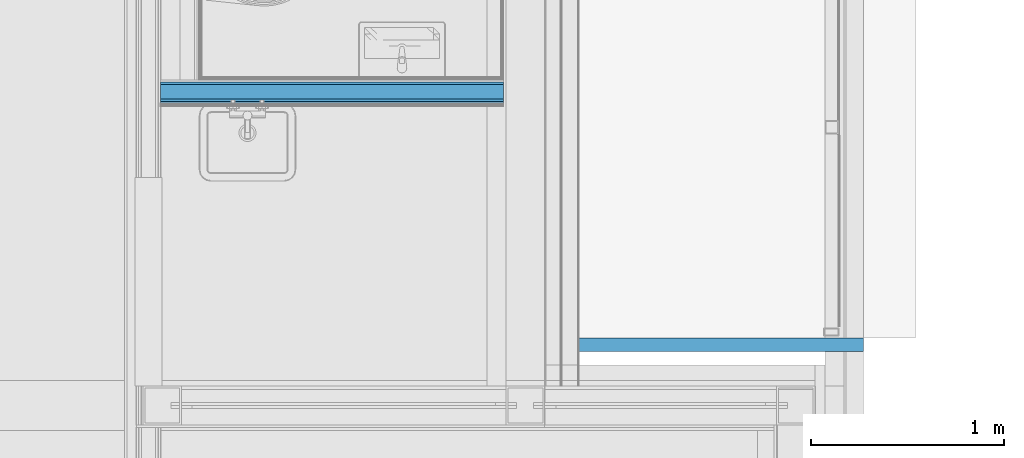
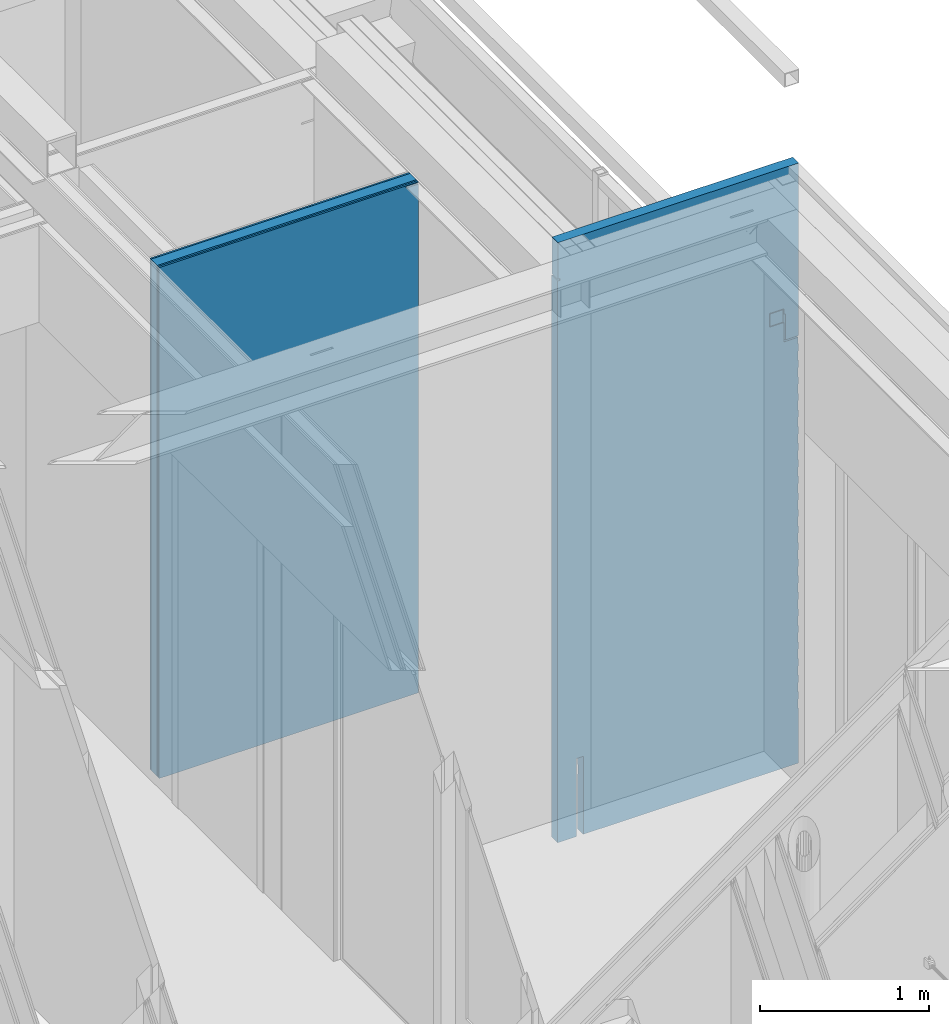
# One storey, part 91 of 165: 5 building element parts, 2 elements without a shape of their own.
"""IFC2X3 building model written with IfcOpenShell, lengths in millimetres."""

from ifc_helpers import new_model, entity, si_unit, converted_unit, derived_unit, money_unit, direction, frame, origin_with_axes, place, context, subcontext, project, spatial, faceted_brep, material, type_object, element, aggregate, save


model = new_model("IFC2X3")

# Units and contexts
model_context = context("Model", 3, precision=0.01, world=origin_with_axes(), true_north=direction((0.0, 1.0)))
body_context = subcontext(model_context, "Body", "Model", "MODEL_VIEW")
ifc_project = project(units=[si_unit("LENGTHUNIT", "METRE", prefix="MILLI"), si_unit("AREAUNIT", "SQUARE_METRE"), si_unit("VOLUMEUNIT", "CUBIC_METRE"), converted_unit("PLANEANGLEUNIT", "DEGREE", entity("IfcPlaneAngleMeasure", 0.0174532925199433), si_unit("PLANEANGLEUNIT", "RADIAN"), dimensions=[0, 0, 0, 0, 0, 0, 0]), money_unit("EUR"), converted_unit("TIMEUNIT", "Year", entity("IfcTimeMeasure", 31556926.0), si_unit("TIMEUNIT", "SECOND"), dimensions=[0, 0, 1, 0, 0, 0, 0]), si_unit("MASSUNIT", "GRAM", prefix="KILO"), si_unit("THERMODYNAMICTEMPERATUREUNIT", "DEGREE_CELSIUS"), si_unit("LUMINOUSINTENSITYUNIT", "LUMEN"), si_unit("ENERGYUNIT", "JOULE", prefix="MEGA"), derived_unit("THERMALCONDUCTANCEUNIT", [(si_unit("POWERUNIT", "WATT"), 1), (si_unit("LENGTHUNIT", "METRE"), -1), (si_unit("THERMODYNAMICTEMPERATUREUNIT", "KELVIN"), -1)]), derived_unit("SPECIFICHEATCAPACITYUNIT", [(si_unit("ENERGYUNIT", "JOULE"), 1), (si_unit("MASSUNIT", "GRAM", prefix="KILO"), -1), (si_unit("THERMODYNAMICTEMPERATUREUNIT", "KELVIN"), -1)]), derived_unit("MASSDENSITYUNIT", [(si_unit("MASSUNIT", "GRAM", prefix="KILO"), 1), (si_unit("VOLUMEUNIT", "CUBIC_METRE"), -1)])], contexts=[model_context])

# Site, building, storey
site_placement = place(None, origin_with_axes())
site = spatial("IfcSite", under=ifc_project, at=site_placement, Name="Site", CompositionType="ELEMENT")
building_placement = place(site_placement, origin_with_axes())
building = spatial("IfcBuilding", under=site, at=building_placement, Name="Naam gebouw", CompositionType="ELEMENT")
storey_placement = place(building_placement, origin_with_axes())
storey = spatial("IfcBuildingStorey", under=building, at=storey_placement, Name="Begane grond", CompositionType="ELEMENT", Elevation=0.0)

# Wall, building element part
wall_type = type_object("IfcWallType", Name="21 Buitenwand spouwmuur HSB 464", PredefinedType="NOTDEFINED")
wall_placement = place(storey_placement, frame((28499.99998415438, 16749.99778166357, -485.0), z_axis=(0.0, 0.0, 1.0), x_axis=(1.0, 0.0, 0.0)))
wall = element("IfcWall", 1, at=wall_placement, inside=storey, type_object=wall_type, Name="21_Wand-x")
ifc_material_1 = material(Name="Steen - Baksteen")
building_element_part_1_placement = place(wall_placement, origin_with_axes())
building_element_part_1 = element("IfcBuildingElementPart", 2, at=building_element_part_1_placement, material=ifc_material_1, Name="Steen - Baksteen", context=body_context, shape_type="Brep", body=[
    faceted_brep([(176.000089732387, 250.0, 465.0000396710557), (176.000089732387, 250.0, 514.9999766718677), (1650.000015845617, 250.0, 514.9999766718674), (1650.000015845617, 250.0, 465.0000396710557), (176.000089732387, 245.0000227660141, 514.9999766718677), (176.000089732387, 245.0000227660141, 465.0000396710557), (176.000089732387, 245.0000227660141, 395.0000313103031), (176.000089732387, 250.0, 395.0000313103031), (176.000089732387, 250.0, 0.0), (176.000089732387, 179.9999999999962, 0.0), (176.000089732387, 179.9999999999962, 565.0000000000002), (176.000089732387, 245.0000227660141, 565.0000000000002), (1645.000038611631, 245.0000227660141, 514.9999766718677), (1645.000038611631, 179.9999999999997, 514.9999766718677), (1650.000015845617, 179.9999999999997, 514.9999766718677), (1650.000015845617, 179.9999999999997, 465.0000396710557), (1645.000038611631, 179.9999999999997, 465.0000396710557), (1645.000038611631, 245.0000227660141, 465.0000396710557), (1645.000038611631, 245.0000227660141, 395.0000313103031), (1645.000038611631, 179.9999999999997, 395.0000313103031), (1650.000015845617, 179.9999999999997, 395.0000313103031), (1650.000015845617, 250.0, 395.0000313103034), (1650.000015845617, 250.0, 0.0), (1650.000015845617, 179.9999999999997, 0.0), (1645.000038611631, 179.9999999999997, 584.999944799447), (1650.000015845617, 179.9999999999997, 584.999944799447), (1650.000015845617, 179.9999999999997, 635.0000427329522), (1645.000038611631, 179.9999999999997, 635.0000427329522), (1645.000038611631, 179.9999999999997, 705.0000108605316), (1650.000015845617, 179.9999999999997, 705.0000108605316), (1650.000015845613, 179.9999999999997, 754.9999478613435), (1645.000038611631, 179.9999999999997, 754.9999478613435), (1645.000038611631, 179.9999999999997, 824.9999562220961), (1650.000015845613, 179.9999999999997, 824.9999562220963), (1650.000015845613, 179.9999999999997, 875.0000139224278), (1645.000038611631, 179.9999999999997, 875.0000139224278), (1645.000038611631, 179.9999999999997, 945.0000222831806), (1650.000015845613, 179.9999999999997, 945.0000222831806), (1650.000015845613, 179.9999999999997, 994.9999995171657), (1645.000038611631, 179.9999999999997, 994.9999995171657), (1645.000038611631, 179.9999999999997, 1064.999927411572), (1650.000015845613, 179.9999999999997, 1064.999927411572), (1650.000015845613, 179.9999999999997, 1115.000025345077), (1645.000038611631, 179.9999999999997, 1115.000025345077), (1645.000038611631, 179.9999999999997, 1184.999993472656), (1650.000015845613, 179.9999999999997, 1184.999993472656), (1650.000015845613, 179.9999999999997, 1234.999970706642), (1645.000038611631, 179.9999999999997, 1234.999970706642), (1645.000038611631, 179.9999999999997, 1304.999979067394), (1650.000015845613, 179.9999999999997, 1304.999979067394), (1650.000015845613, 179.9999999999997, 1354.999996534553), (1645.000038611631, 179.9999999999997, 1354.999996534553), (1645.000038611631, 179.9999999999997, 1425.000004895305), (1650.000015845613, 179.9999999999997, 1425.000004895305), (1650.000015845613, 179.9999999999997, 1474.999982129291), (1645.000038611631, 179.9999999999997, 1474.999982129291), (1645.000038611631, 179.9999999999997, 1544.99995025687), (1650.000015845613, 179.9999999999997, 1544.99995025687), (1650.000015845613, 179.9999999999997, 1595.000007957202), (1645.000038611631, 179.9999999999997, 1595.000007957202), (1645.000038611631, 179.9999999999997, 1664.999976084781), (1650.000015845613, 179.9999999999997, 1664.999976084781), (1650.000015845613, 179.9999999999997, 1714.999993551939), (1645.000038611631, 179.9999999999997, 1714.999993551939), (1645.000038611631, 179.9999999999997, 1784.999961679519), (1650.000015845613, 179.9999999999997, 1784.999961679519), (1650.000015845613, 179.9999999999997, 1835.000019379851), (1645.000038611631, 179.9999999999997, 1835.000019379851), (1645.000038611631, 179.9999999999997, 1905.000027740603), (1650.000015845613, 179.9999999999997, 1905.000027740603), (1650.000015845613, 179.9999999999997, 1954.999964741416), (1645.000038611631, 179.9999999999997, 1954.999964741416), (1645.000038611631, 179.9999999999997, 2024.999973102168), (1650.000015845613, 179.9999999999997, 2024.999973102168), (1650.000015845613, 179.9999999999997, 2075.0000308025), (1645.000038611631, 179.9999999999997, 2075.0000308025), (1645.000038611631, 179.9999999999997, 2144.99999893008), (1650.000015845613, 179.9999999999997, 2144.99999893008), (1650.000015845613, 179.9999999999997, 2194.999976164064), (1645.000038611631, 179.9999999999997, 2194.999976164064), (1645.000038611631, 179.9999999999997, 2264.999944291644), (1650.000015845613, 179.9999999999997, 2264.999944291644), (1650.000015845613, 179.9999999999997, 2315.000001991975), (1645.000038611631, 179.9999999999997, 2315.000001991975), (1645.000038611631, 179.9999999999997, 2385.000010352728), (1650.00001584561, 179.9999999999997, 2385.000010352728), (1650.00001584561, 179.9999999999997, 2434.999987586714), (1645.000038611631, 179.9999999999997, 2434.999987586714), (1645.000038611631, 179.9999999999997, 2504.999995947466), (1650.00001584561, 179.9999999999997, 2504.999995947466), (1650.00001584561, 179.9999999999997, 2555.000013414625), (1645.000038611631, 179.9999999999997, 2555.000013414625), (1645.000038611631, 179.9999999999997, 2625.000021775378), (1650.00001584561, 179.9999999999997, 2625.000021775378), (1650.00001584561, 179.9999999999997, 2674.999999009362), (1645.000038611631, 179.9999999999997, 2674.999999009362), (1645.000038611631, 179.9999999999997, 2744.999967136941), (1650.00001584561, 179.9999999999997, 2744.999967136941), (1650.00001584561, 179.9999999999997, 2795.000024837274), (1645.000038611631, 179.9999999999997, 2795.000024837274), (1645.000038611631, 179.9999999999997, 2864.999992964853), (1650.00001584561, 179.9999999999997, 2864.999992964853), (1650.00001584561, 179.9999999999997, 2914.999970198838), (1645.000038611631, 179.9999999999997, 2914.999970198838), (1645.000038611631, 179.9999999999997, 2984.999978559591), (1650.00001584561, 179.9999999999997, 2984.999978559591), (1650.00001584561, 179.9999999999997, 3035.000036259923), (1645.000038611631, 179.9999999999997, 3035.000036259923), (1645.000038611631, 179.9999999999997, 3085.000008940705), (1550.000015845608, 179.9999999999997, 3085.000008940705), (1550.000015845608, 179.9999999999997, 3225.000013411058), (1450.000015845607, 179.9999999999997, 3225.000013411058), (1450.000015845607, 179.9999999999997, 3325.000013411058), (1550.000015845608, 179.9999999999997, 3325.000013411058), (1550.000015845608, 179.9999999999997, 3285.000008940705), (1560.00001584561, 179.9999999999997, 3285.000008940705), (1560.00001584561, 179.9999999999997, 3095.000008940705), (1650.00001584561, 179.9999999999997, 3095.000008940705), (1650.000015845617, 179.9999999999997, 4345.0), (1.000020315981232, 179.9999999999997, 4345.0), (1.000020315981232, 179.9999999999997, 4079.999999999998), (16.0000203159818, 179.9999999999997, 4079.999999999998), (16.0000203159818, 179.9999999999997, 4067.999999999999), (0.0, 179.9999999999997, 4067.999999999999), (0.0, 179.9999999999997, 0.0), (128.0000897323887, 179.9999999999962, 0.0), (128.0000897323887, 179.9999999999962, 565.0000000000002), (128.0000897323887, 245.0000227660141, 565.0000000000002), (128.0000897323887, 245.0000227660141, 514.9999766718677), (50.0000037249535, 245.0000227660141, 514.9999766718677), (50.0000037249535, 245.0000227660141, 584.999944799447), (1645.000038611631, 245.0000227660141, 584.999944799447), (50.0000037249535, 250.0, 584.999944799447), (1650.000015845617, 250.0, 584.999944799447), (1650.000015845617, 250.0, 635.0000427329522), (50.0000037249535, 250.0, 635.0000427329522), (50.0000037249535, 245.0000227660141, 635.0000427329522), (1645.000038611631, 245.0000227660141, 635.0000427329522), (1645.000038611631, 245.0000227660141, 705.0000108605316), (50.0000037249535, 245.0000227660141, 705.0000108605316), (50.0000037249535, 250.0, 705.0000108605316), (1650.000015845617, 250.0, 705.0000108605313), (1650.000015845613, 250.0, 754.9999478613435), (50.0000037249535, 250.0, 754.9999478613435), (50.0000037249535, 245.0000227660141, 754.9999478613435), (1645.000038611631, 245.0000227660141, 754.9999478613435), (1645.000038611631, 245.0000227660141, 824.9999562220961), (50.0000037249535, 245.0000227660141, 824.9999562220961), (50.0000037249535, 250.0, 824.9999562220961), (1650.000015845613, 250.0, 824.9999562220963), (1650.000015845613, 250.0, 875.0000139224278), (50.0000037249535, 250.0, 875.0000139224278), (50.0000037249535, 245.0000227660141, 875.0000139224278), (1645.000038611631, 245.0000227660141, 875.0000139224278), (1645.000038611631, 245.0000227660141, 945.0000222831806), (50.0000037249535, 245.0000227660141, 945.0000222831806), (50.0000037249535, 250.0, 945.0000222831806), (1650.000015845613, 250.0, 945.0000222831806), (1650.000015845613, 250.0, 994.999999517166), (50.0000037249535, 250.0, 994.9999995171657), (50.0000037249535, 245.0000227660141, 994.9999995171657), (1645.000038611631, 245.0000227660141, 994.9999995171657), (1645.000038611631, 245.0000227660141, 1064.999927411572), (50.0000037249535, 245.0000227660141, 1064.999927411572), (50.0000037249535, 250.0, 1064.999927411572), (1650.000015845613, 250.0, 1064.999927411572), (1650.000015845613, 250.0, 1115.000025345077), (50.0000037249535, 250.0, 1115.000025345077), (50.0000037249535, 245.0000227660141, 1115.000025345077), (1645.000038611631, 245.0000227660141, 1115.000025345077), (1645.000038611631, 245.0000227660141, 1184.999993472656), (50.0000037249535, 245.0000227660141, 1184.999993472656), (50.0000037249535, 250.0, 1184.999993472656), (1650.000015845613, 250.0, 1184.999993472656), (1650.000015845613, 250.0, 1234.999970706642), (50.0000037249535, 250.0, 1234.999970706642), (50.0000037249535, 245.0000227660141, 1234.999970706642), (1645.000038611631, 245.0000227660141, 1234.999970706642), (1645.000038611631, 245.0000227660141, 1304.999979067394), (50.0000037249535, 245.0000227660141, 1304.999979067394), (50.0000037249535, 250.0, 1304.999979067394), (1650.000015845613, 250.0, 1304.999979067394), (1650.000015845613, 250.0, 1354.999996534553), (50.0000037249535, 250.0, 1354.999996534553), (50.0000037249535, 245.0000227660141, 1354.999996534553), (1645.000038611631, 245.0000227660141, 1354.999996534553), (1645.000038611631, 245.0000227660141, 1425.000004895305), (50.0000037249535, 245.0000227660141, 1425.000004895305), (50.0000037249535, 250.0, 1425.000004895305), (1650.000015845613, 250.0, 1425.000004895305), (1650.000015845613, 250.0, 1474.999982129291), (50.0000037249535, 250.0, 1474.999982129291), (50.0000037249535, 245.0000227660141, 1474.999982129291), (1645.000038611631, 245.0000227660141, 1474.999982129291), (1645.000038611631, 245.0000227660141, 1544.99995025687), (50.0000037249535, 245.0000227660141, 1544.99995025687), (50.0000037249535, 250.0, 1544.99995025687), (1650.000015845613, 250.0, 1544.99995025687), (1650.000015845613, 250.0, 1595.000007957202), (50.0000037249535, 250.0, 1595.000007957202), (50.0000037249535, 245.0000227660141, 1595.000007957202), (1645.000038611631, 245.0000227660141, 1595.000007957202), (1645.000038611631, 245.0000227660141, 1664.999976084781), (50.0000037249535, 245.0000227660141, 1664.999976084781), (50.0000037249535, 250.0, 1664.999976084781), (1650.000015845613, 250.0, 1664.999976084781), (1650.000015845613, 250.0, 1714.999993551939), (50.0000037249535, 250.0, 1714.999993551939), (50.0000037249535, 245.0000227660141, 1714.999993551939), (1645.000038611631, 245.0000227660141, 1714.999993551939), (1645.000038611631, 245.0000227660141, 1784.999961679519), (50.0000037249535, 245.0000227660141, 1784.999961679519), (50.0000037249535, 250.0, 1784.999961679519), (1650.000015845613, 250.0, 1784.999961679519), (1650.000015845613, 250.0, 1835.000019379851), (50.0000037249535, 250.0, 1835.000019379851), (50.0000037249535, 245.0000227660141, 1835.000019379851), (1645.000038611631, 245.0000227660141, 1835.000019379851), (1645.000038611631, 245.0000227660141, 1905.000027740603), (50.0000037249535, 245.0000227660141, 1905.000027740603), (50.0000037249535, 250.0, 1905.000027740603), (1650.000015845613, 250.0, 1905.000027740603), (1650.000015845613, 250.0, 1954.999964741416), (50.0000037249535, 250.0, 1954.999964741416), (50.0000037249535, 245.0000227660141, 1954.999964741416), (1645.000038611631, 245.0000227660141, 1954.999964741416), (1645.000038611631, 245.0000227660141, 2024.999973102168), (50.0000037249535, 245.0000227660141, 2024.999973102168), (50.0000037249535, 250.0, 2024.999973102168), (1650.000015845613, 250.0, 2024.999973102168), (1650.000015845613, 250.0, 2075.0000308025), (50.0000037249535, 250.0, 2075.0000308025), (50.0000037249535, 245.0000227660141, 2075.0000308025), (1645.000038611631, 245.0000227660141, 2075.0000308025), (1645.000038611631, 245.0000227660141, 2144.99999893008), (50.0000037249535, 245.0000227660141, 2144.99999893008), (50.0000037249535, 250.0, 2144.99999893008), (1650.000015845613, 250.0, 2144.99999893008), (1650.000015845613, 250.0, 2194.999976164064), (50.0000037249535, 250.0, 2194.999976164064), (50.0000037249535, 245.0000227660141, 2194.999976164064), (1645.000038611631, 245.0000227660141, 2194.999976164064), (1645.000038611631, 245.0000227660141, 2264.999944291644), (50.0000037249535, 245.0000227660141, 2264.999944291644), (50.0000037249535, 250.0, 2264.999944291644), (1650.000015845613, 250.0, 2264.999944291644), (1650.000015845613, 250.0, 2315.000001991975), (50.0000037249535, 250.0, 2315.000001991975), (50.0000037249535, 245.0000227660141, 2315.000001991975), (1645.000038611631, 245.0000227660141, 2315.000001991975), (1645.000038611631, 245.0000227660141, 2385.000010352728), (50.0000037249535, 245.0000227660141, 2385.000010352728), (50.0000037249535, 250.0, 2385.000010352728), (1650.00001584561, 250.0, 2385.000010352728), (1650.00001584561, 250.0, 2434.999987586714), (50.0000037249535, 250.0, 2434.999987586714), (50.0000037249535, 245.0000227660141, 2434.999987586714), (1645.000038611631, 245.0000227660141, 2434.999987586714), (1645.000038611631, 245.0000227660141, 2504.999995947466), (50.0000037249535, 245.0000227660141, 2504.999995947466), (50.0000037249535, 250.0, 2504.999995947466), (1650.00001584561, 250.0, 2504.999995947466), (1650.00001584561, 250.0, 2555.000013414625), (50.0000037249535, 250.0, 2555.000013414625), (50.0000037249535, 245.0000227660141, 2555.000013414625), (1645.000038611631, 245.0000227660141, 2555.000013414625), (1645.000038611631, 245.0000227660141, 2625.000021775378), (50.0000037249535, 245.0000227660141, 2625.000021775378), (50.0000037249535, 250.0, 2625.000021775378), (1650.00001584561, 250.0, 2625.000021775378), (1650.00001584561, 250.0, 2674.999999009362), (50.0000037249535, 250.0, 2674.999999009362), (50.0000037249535, 245.0000227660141, 2674.999999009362), (1645.000038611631, 245.0000227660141, 2674.999999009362), (1645.000038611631, 245.0000227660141, 2744.999967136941), (50.0000037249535, 245.0000227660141, 2744.999967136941), (50.0000037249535, 250.0, 2744.999967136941), (1650.00001584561, 250.0, 2744.999967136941), (1650.00001584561, 250.0, 2795.000024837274), (50.0000037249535, 250.0, 2795.000024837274), (50.0000037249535, 245.0000227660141, 2795.000024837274), (1645.000038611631, 245.0000227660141, 2795.000024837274), (1645.000038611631, 245.0000227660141, 2864.999992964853), (50.0000037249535, 245.0000227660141, 2864.999992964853), (50.0000037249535, 250.0, 2864.999992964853), (1650.00001584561, 250.0, 2864.999992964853), (1650.00001584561, 250.0, 2914.999970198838), (50.0000037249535, 250.0, 2914.999970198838), (50.0000037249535, 245.0000227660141, 2914.999970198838), (1645.000038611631, 245.0000227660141, 2914.999970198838), (1645.000038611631, 245.0000227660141, 2984.999978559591), (50.0000037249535, 245.0000227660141, 2984.999978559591), (50.0000037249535, 250.0, 2984.999978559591), (1650.00001584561, 250.0, 2984.999978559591), (1650.00001584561, 250.0, 3035.000036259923), (50.0000037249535, 250.0, 3035.000036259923), (50.0000037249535, 245.0000227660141, 3035.000036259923), (1645.000038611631, 245.0000227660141, 3035.000036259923), (1645.000038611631, 245.0000227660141, 3085.000008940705), (1550.000015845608, 245.0000227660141, 3085.000008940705), (1550.000015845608, 245.0000227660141, 3095.000008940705), (1550.000015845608, 250.0, 3095.000008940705), (1550.000015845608, 250.0, 3225.000013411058), (1450.000015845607, 250.0, 3225.000013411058), (1450.000015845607, 250.0, 3325.000013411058), (1550.000015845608, 250.0, 3325.000013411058), (1550.000015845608, 250.0, 3285.000008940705), (1560.00001584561, 250.0, 3285.000008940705), (1560.00001584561, 250.0, 3095.000008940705), (1650.00001584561, 250.0, 3095.000008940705), (1650.000015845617, 250.0, 4345.0), (1.000020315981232, 250.0, 4345.0), (1.000020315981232, 250.0, 4079.999999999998), (16.0000203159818, 250.0, 4079.999999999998), (16.0000203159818, 250.0, 4067.999999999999), (0.0, 250.0, 4067.999999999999), (0.0, 250.0, 0.0), (128.0000897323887, 250.0, 0.0), (128.0000897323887, 250.0, 465.0000396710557), (128.0000897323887, 250.0, 514.9999766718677), (128.0000897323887, 250.0, 395.0000313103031), (128.0000897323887, 245.0000227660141, 395.0000313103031), (128.0000897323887, 245.0000227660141, 465.0000396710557), (50.0000037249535, 250.0, 514.9999766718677), (50.0000037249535, 250.0, 3095.000008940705), (50.0000037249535, 250.0, 465.0000396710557), (50.0000037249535, 250.0, 395.0000313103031), (50.0000037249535, 245.0000227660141, 3095.000008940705), (50.0000037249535, 245.0000227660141, 395.0000313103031), (50.0000037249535, 245.0000227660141, 465.0000396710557)], [[[0, 1, 2, 3]], [[4, 1, 0, 5, 6, 7, 8, 9, 10, 11]], [[1, 4, 12, 13, 14, 2]], [[3, 2, 14, 15]], [[5, 0, 3, 15, 16, 17]], [[6, 5, 17, 18]], [[7, 6, 18, 19, 20, 21]], [[8, 7, 21, 22]], [[9, 8, 22, 23]], [[10, 9, 23, 20, 19, 16, 15, 14, 13, 24, 25, 26, 27, 28, 29, 30, 31, 32, 33, 34, 35, 36, 37, 38, 39, 40, 41, 42, 43, 44, 45, 46, 47, 48, 49, 50, 51, 52, 53, 54, 55, 56, 57, 58, 59, 60, 61, 62, 63, 64, 65, 66, 67, 68, 69, 70, 71, 72, 73, 74, 75, 76, 77, 78, 79, 80, 81, 82, 83, 84, 85, 86, 87, 88, 89, 90, 91, 92, 93, 94, 95, 96, 97, 98, 99, 100, 101, 102, 103, 104, 105, 106, 107, 108, 109, 110, 111, 112, 113, 114, 115, 116, 117, 118, 119, 120, 121, 122, 123, 124, 125, 126]], [[127, 11, 10, 126]], [[127, 128, 129, 130, 131, 12, 4, 11]], [[13, 12, 131, 24]], [[19, 18, 17, 16]], [[22, 21, 20, 23]], [[24, 131, 130, 132, 133, 25]], [[133, 134, 26, 25]], [[26, 134, 135, 136, 137, 27]], [[27, 137, 138, 28]], [[28, 138, 139, 140, 141, 29]], [[141, 142, 30, 29]], [[30, 142, 143, 144, 145, 31]], [[31, 145, 146, 32]], [[32, 146, 147, 148, 149, 33]], [[149, 150, 34, 33]], [[34, 150, 151, 152, 153, 35]], [[35, 153, 154, 36]], [[36, 154, 155, 156, 157, 37]], [[157, 158, 38, 37]], [[38, 158, 159, 160, 161, 39]], [[39, 161, 162, 40]], [[40, 162, 163, 164, 165, 41]], [[165, 166, 42, 41]], [[42, 166, 167, 168, 169, 43]], [[43, 169, 170, 44]], [[44, 170, 171, 172, 173, 45]], [[173, 174, 46, 45]], [[46, 174, 175, 176, 177, 47]], [[47, 177, 178, 48]], [[48, 178, 179, 180, 181, 49]], [[181, 182, 50, 49]], [[50, 182, 183, 184, 185, 51]], [[51, 185, 186, 52]], [[52, 186, 187, 188, 189, 53]], [[189, 190, 54, 53]], [[54, 190, 191, 192, 193, 55]], [[55, 193, 194, 56]], [[56, 194, 195, 196, 197, 57]], [[197, 198, 58, 57]], [[58, 198, 199, 200, 201, 59]], [[59, 201, 202, 60]], [[60, 202, 203, 204, 205, 61]], [[205, 206, 62, 61]], [[62, 206, 207, 208, 209, 63]], [[63, 209, 210, 64]], [[64, 210, 211, 212, 213, 65]], [[213, 214, 66, 65]], [[66, 214, 215, 216, 217, 67]], [[67, 217, 218, 68]], [[68, 218, 219, 220, 221, 69]], [[221, 222, 70, 69]], [[70, 222, 223, 224, 225, 71]], [[71, 225, 226, 72]], [[72, 226, 227, 228, 229, 73]], [[229, 230, 74, 73]], [[74, 230, 231, 232, 233, 75]], [[75, 233, 234, 76]], [[76, 234, 235, 236, 237, 77]], [[237, 238, 78, 77]], [[78, 238, 239, 240, 241, 79]], [[79, 241, 242, 80]], [[80, 242, 243, 244, 245, 81]], [[245, 246, 82, 81]], [[82, 246, 247, 248, 249, 83]], [[83, 249, 250, 84]], [[84, 250, 251, 252, 253, 85]], [[253, 254, 86, 85]], [[86, 254, 255, 256, 257, 87]], [[87, 257, 258, 88]], [[88, 258, 259, 260, 261, 89]], [[261, 262, 90, 89]], [[90, 262, 263, 264, 265, 91]], [[91, 265, 266, 92]], [[92, 266, 267, 268, 269, 93]], [[269, 270, 94, 93]], [[94, 270, 271, 272, 273, 95]], [[95, 273, 274, 96]], [[96, 274, 275, 276, 277, 97]], [[277, 278, 98, 97]], [[98, 278, 279, 280, 281, 99]], [[99, 281, 282, 100]], [[100, 282, 283, 284, 285, 101]], [[285, 286, 102, 101]], [[102, 286, 287, 288, 289, 103]], [[103, 289, 290, 104]], [[104, 290, 291, 292, 293, 105]], [[293, 294, 106, 105]], [[106, 294, 295, 296, 297, 107]], [[107, 297, 298, 108]], [[108, 298, 299, 109]], [[299, 300, 301, 302, 110, 109]], [[302, 303, 111, 110]], [[304, 112, 111, 303]], [[305, 113, 112, 304]], [[306, 114, 113, 305]], [[306, 307, 115, 114]], [[308, 116, 115, 307]], [[309, 117, 116, 308]], [[309, 310, 118, 117]], [[119, 118, 310, 311]], [[311, 312, 120, 119]], [[313, 121, 120, 312]], [[314, 122, 121, 313]], [[315, 123, 122, 314]], [[315, 316, 124, 123]], [[317, 125, 124, 316]], [[318, 319, 128, 127, 126, 125, 317, 320, 321, 322]], [[128, 319, 323, 129]], [[129, 323, 132, 130]], [[320, 317, 316, 315, 314, 313, 312, 311, 310, 309, 308, 307, 306, 305, 304, 303, 302, 301, 324, 295, 294, 293, 292, 287, 286, 285, 284, 279, 278, 277, 276, 271, 270, 269, 268, 263, 262, 261, 260, 255, 254, 253, 252, 247, 246, 245, 244, 239, 238, 237, 236, 231, 230, 229, 228, 223, 222, 221, 220, 215, 214, 213, 212, 207, 206, 205, 204, 199, 198, 197, 196, 191, 190, 189, 188, 183, 182, 181, 180, 175, 174, 173, 172, 167, 166, 165, 164, 159, 158, 157, 156, 151, 150, 149, 148, 143, 142, 141, 140, 135, 134, 133, 132, 323, 319, 318, 325, 326]], [[136, 135, 140, 139]], [[139, 138, 137, 136]], [[144, 143, 148, 147]], [[147, 146, 145, 144]], [[152, 151, 156, 155]], [[155, 154, 153, 152]], [[160, 159, 164, 163]], [[163, 162, 161, 160]], [[168, 167, 172, 171]], [[171, 170, 169, 168]], [[176, 175, 180, 179]], [[179, 178, 177, 176]], [[184, 183, 188, 187]], [[187, 186, 185, 184]], [[192, 191, 196, 195]], [[195, 194, 193, 192]], [[200, 199, 204, 203]], [[203, 202, 201, 200]], [[208, 207, 212, 211]], [[211, 210, 209, 208]], [[216, 215, 220, 219]], [[219, 218, 217, 216]], [[224, 223, 228, 227]], [[227, 226, 225, 224]], [[232, 231, 236, 235]], [[235, 234, 233, 232]], [[240, 239, 244, 243]], [[243, 242, 241, 240]], [[248, 247, 252, 251]], [[251, 250, 249, 248]], [[256, 255, 260, 259]], [[259, 258, 257, 256]], [[264, 263, 268, 267]], [[267, 266, 265, 264]], [[272, 271, 276, 275]], [[275, 274, 273, 272]], [[280, 279, 284, 283]], [[283, 282, 281, 280]], [[288, 287, 292, 291]], [[291, 290, 289, 288]], [[296, 295, 324, 327]], [[300, 299, 298, 297, 296, 327]], [[327, 324, 301, 300]], [[321, 320, 326, 328]], [[322, 321, 328, 329]], [[318, 322, 329, 325]], [[328, 326, 325, 329]]]),
    faceted_brep([(1455.000015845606, 179.9999999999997, 3230.000013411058), (1545.000015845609, 179.9999999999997, 3230.000013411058), (1545.000015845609, 179.9999999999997, 3320.000013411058), (1455.000015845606, 179.9999999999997, 3320.000013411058), (1455.000015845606, 250.0, 3230.000013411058), (1545.000015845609, 250.0, 3230.000013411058), (1545.000015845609, 250.0, 3320.000013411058), (1455.000015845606, 250.0, 3320.000013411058)], [[[0, 1, 2, 3]], [[4, 5, 1, 0]], [[5, 6, 2, 1]], [[6, 7, 3, 2]], [[7, 4, 0, 3]], [[4, 7, 6, 5]]]),
])
aggregate(wall, [building_element_part_1])

# Proxy, building element parts
building_element_proxy_type = type_object("IfcBuildingElementProxyType", Name="22 Metal stud 125 gips 125", PredefinedType="NOTDEFINED")
proxy_placement = place(storey_placement, frame((26385.99999867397, 18211.00041306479, -100.0), z_axis=(0.0, 0.0, 1.0), x_axis=(1.0, -1.489980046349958e-08, 0.0)))
proxy = element("IfcBuildingElementProxy", 3, at=proxy_placement, inside=storey, type_object=building_element_proxy_type, Name="_Wand-x")
ifc_material_2 = material(Name="ALG - LICHTE SCHEIDINGSWAND")
building_element_part_2_placement = place(proxy_placement, origin_with_axes())
building_element_part_2 = element("IfcBuildingElementPart", 4, at=building_element_part_2_placement, material=ifc_material_2, Name="ALG - LICHTE SCHEIDINGSWAND", context=body_context, shape_type="Brep", body=[
    faceted_brep([(1899.999985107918, 25.00002830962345, 3694.999999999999), (1899.999983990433, 100.0000283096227, 3694.999999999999), (1899.999983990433, 100.0000283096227, 3700.0), (1899.999985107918, 25.00002830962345, 3700.0), (1814.999999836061, 100.0000270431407, 3694.999999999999), (1815.000000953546, 25.00002704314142, 3694.999999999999), (1814.999999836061, 100.0000270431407, 3682.999999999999), (1899.999983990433, 100.0000283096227, 3682.999999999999), (1899.999983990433, 100.0000283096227, 0.0), (124.99999983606, 100.000001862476, 0.0), (124.99999983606, 100.000001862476, 3700.0), (125.0000009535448, 25.0000018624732, 3700.0), (125.0000009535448, 25.0000018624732, 0.0), (1899.999985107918, 25.00002830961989, 0.0), (1899.999985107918, 25.00002830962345, 3682.999999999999), (1815.000000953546, 25.00002704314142, 3682.999999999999)], [[[0, 1, 2, 3]], [[4, 1, 0, 5]], [[6, 7, 8, 9, 10, 2, 1, 4]], [[3, 2, 10, 11]], [[5, 0, 3, 11, 12, 13, 14, 15]], [[6, 4, 5, 15]], [[14, 7, 6, 15]], [[7, 14, 13, 8]], [[8, 13, 12, 9]], [[10, 9, 12, 11]]]),
])
ifc_material_3 = material(Name="Gipsplaat")
building_element_part_3_placement = place(proxy_placement, origin_with_axes())
building_element_part_3 = element("IfcBuildingElementPart", 5, at=building_element_part_3_placement, material=ifc_material_3, Name="Gipsplaat", context=body_context, shape_type="Brep", body=[
    faceted_brep([(1899.999983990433, 100.0000283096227, 3694.999999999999), (1899.999983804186, 112.500028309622, 3694.999999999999), (1899.999983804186, 112.500028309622, 3700.0), (1899.999983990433, 100.0000283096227, 3700.0), (1814.999999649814, 112.50002704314, 3694.999999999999), (1814.999999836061, 100.0000270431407, 3694.999999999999), (1814.999999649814, 112.50002704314, 3682.999999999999), (1899.999983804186, 112.500028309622, 3682.999999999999), (1899.999983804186, 112.500028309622, 0.0), (124.9999996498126, 112.5000018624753, 0.0), (124.9999996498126, 112.5000018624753, 3700.0), (124.99999983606, 100.000001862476, 3700.0), (124.99999983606, 100.000001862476, 0.0), (1899.999983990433, 100.0000283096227, 0.0), (1899.999983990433, 100.0000283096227, 3682.999999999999), (1814.999999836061, 100.0000270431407, 3682.999999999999)], [[[0, 1, 2, 3]], [[4, 1, 0, 5]], [[6, 7, 8, 9, 10, 2, 1, 4]], [[3, 2, 10, 11]], [[5, 0, 3, 11, 12, 13, 14, 15]], [[6, 4, 5, 15]], [[14, 7, 6, 15]], [[7, 14, 13, 8]], [[8, 13, 12, 9]], [[10, 9, 12, 11]]]),
])
building_element_part_4_placement = place(proxy_placement, origin_with_axes())
building_element_part_4 = element("IfcBuildingElementPart", 6, at=building_element_part_4_placement, material=ifc_material_3, Name="Gipsplaat", context=body_context, shape_type="Brep", body=[
    faceted_brep([(1899.999985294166, 12.5000283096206, 3694.999999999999), (1899.999985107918, 25.00002830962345, 3694.999999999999), (1899.999985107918, 25.00002830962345, 3700.0), (1899.999985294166, 12.5000283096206, 3700.0), (1815.000000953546, 25.00002704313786, 3694.999999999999), (1815.000001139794, 12.50002704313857, 3694.999999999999), (1815.000000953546, 25.00002704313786, 3682.999999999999), (1899.999985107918, 25.00002830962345, 3682.999999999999), (1899.999985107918, 25.00002830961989, 0.0), (125.0000009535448, 25.0000018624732, 0.0), (125.0000009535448, 25.0000018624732, 3700.0), (125.0000011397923, 12.50000186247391, 3700.0), (125.0000011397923, 12.50000186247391, 0.0), (1899.999985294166, 12.5000283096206, 0.0), (1899.999985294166, 12.5000283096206, 3682.999999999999), (1815.000001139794, 12.50002704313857, 3682.999999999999)], [[[0, 1, 2, 3]], [[4, 1, 0, 5]], [[6, 7, 8, 9, 10, 2, 1, 4]], [[3, 2, 10, 11]], [[5, 0, 3, 11, 12, 13, 14, 15]], [[6, 4, 5, 15]], [[14, 7, 6, 15]], [[7, 14, 13, 8]], [[8, 13, 12, 9]], [[10, 9, 12, 11]]]),
])
building_element_part_5_placement = place(proxy_placement, origin_with_axes())
building_element_part_5 = element("IfcBuildingElementPart", 7, at=building_element_part_5_placement, material=ifc_material_3, Name="Gipsplaat", context=body_context, shape_type="Brep", body=[
    faceted_brep([(1899.999985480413, 2.830962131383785e-05, 3694.999999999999), (1899.999985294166, 12.5000283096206, 3694.999999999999), (1899.999985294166, 12.5000283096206, 3700.0), (1899.999985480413, 2.830962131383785e-05, 3700.0), (1815.000001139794, 12.50002704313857, 3694.999999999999), (1815.000001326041, 2.704313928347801e-05, 3694.999999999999), (1815.000001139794, 12.50002704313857, 3682.999999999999), (1899.999985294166, 12.5000283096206, 3682.999999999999), (1899.999985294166, 12.5000283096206, 0.0), (125.0000011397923, 12.50000186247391, 0.0), (125.0000011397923, 12.50000186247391, 3700.0), (125.0000013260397, 1.862474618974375e-06, 3700.0), (125.0000013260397, 1.862474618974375e-06, 0.0), (1899.999985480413, 2.830962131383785e-05, 0.0), (1899.999985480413, 2.830962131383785e-05, 3682.999999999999), (1815.000001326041, 2.704313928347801e-05, 3682.999999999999)], [[[0, 1, 2, 3]], [[4, 1, 0, 5]], [[6, 7, 8, 9, 10, 2, 1, 4]], [[3, 2, 10, 11]], [[5, 0, 3, 11, 12, 13, 14, 15]], [[6, 4, 5, 15]], [[14, 7, 6, 15]], [[7, 14, 13, 8]], [[8, 13, 12, 9]], [[10, 9, 12, 11]]]),
])
aggregate(proxy, [building_element_part_2, building_element_part_3, building_element_part_4, building_element_part_5])

save(model, "model.ifc")
